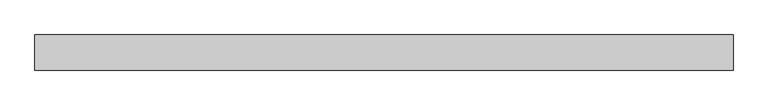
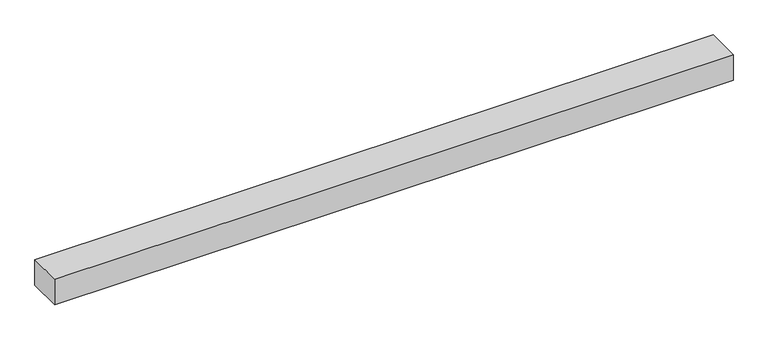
"""IFC4 building model written with IfcOpenShell, lengths in millimetres: plate geometry, Panel del sistema vacío : Vacío."""

import ifcopenshell
import ifcopenshell.guid

model = None  # the IFC model being written
_history = None  # IfcOwnerHistory: only IFC2X3 demands one
_inside = {}  # id of a spatial element -> (the spatial element, [elements in it])
_under = {}  # id of a project, library or spatial element -> (it, [spatial elements below it])
_declared = {}  # id of a project -> (the project, [libraries it declares])
_typed = {}  # id of a type object -> (the type object, [elements of that type])
_made_of = {}  # id of a material, layer set ... -> (it, [elements and type objects made of it])


def new_model(schema):
    """Start an empty IFC model of exactly this schema.

    Asked for "IFC4X3", IfcOpenShell would pick the latest addendum, in which some entities
    have other attributes; the version numbers below select the first issue.
    IFC2X3 requires an IfcOwnerHistory on every rooted entity: one is made here for all.
    """
    global model, _history
    if schema == "IFC4X3":
        model = ifcopenshell.file(schema_version=(4, 3, 0, 0))
    else:
        model = ifcopenshell.file(schema=schema)
    _inside.clear()
    _under.clear()
    _declared.clear()
    _typed.clear()
    _made_of.clear()
    _history = None
    if model.schema == "IFC2X3":
        org = make("IfcOrganization", Name="unknown")
        user = make(
            "IfcPersonAndOrganization",
            ThePerson=make("IfcPerson", FamilyName="unknown"),
            TheOrganization=org,
        )
        app = make(
            "IfcApplication",
            ApplicationDeveloper=org,
            Version="unknown",
            ApplicationFullName="unknown",
            ApplicationIdentifier="unknown",
        )
        _history = make(
            "IfcOwnerHistory",
            OwningUser=user,
            OwningApplication=app,
            ChangeAction="ADDED",
            CreationDate=0,
        )
    return model


def make(cls, **values):
    """One entity of the class cls with the attributes given. An attribute that is None is left unset."""
    return model.create_entity(
        cls, **{name: value for name, value in values.items() if value is not None}
    )


def rooted(cls, **values):
    """An entity with a GlobalId (a new one), such as an element, a storey or a relation."""
    return make(cls, GlobalId=ifcopenshell.guid.new(), OwnerHistory=_history, **values)


def si_unit(unit_type, name, prefix=None):
    """IfcSIUnit, for example si_unit("LENGTHUNIT", "METRE", prefix="MILLI")."""
    return make("IfcSIUnit", UnitType=unit_type, Prefix=prefix, Name=name)


def assignment(units):
    """IfcUnitAssignment: the units of a project."""
    return None if units is None else make("IfcUnitAssignment", Units=units)


def point(xyz):
    """IfcCartesianPoint."""
    return None if xyz is None else make("IfcCartesianPoint", Coordinates=xyz)


def direction(xyz):
    """IfcDirection."""
    return None if xyz is None else make("IfcDirection", DirectionRatios=xyz)


def frame(location, z_axis=None, x_axis=None):
    """IfcAxis2Placement3D, a coordinate frame: its origin and axes. An axis left out is left unset."""
    return make(
        "IfcAxis2Placement3D",
        Location=point(location),
        Axis=direction(z_axis),
        RefDirection=direction(x_axis),
    )


def origin():
    """The frame at (0, 0, 0) with its axes left unset."""
    return frame((0.0, 0.0, 0.0))


def origin_with_axes():
    """The frame at (0, 0, 0) with the z axis (0, 0, 1) and the x axis (1, 0, 0) written out."""
    return frame((0.0, 0.0, 0.0), z_axis=(0.0, 0.0, 1.0), x_axis=(1.0, 0.0, 0.0))


def place(relative_to, where):
    """IfcLocalPlacement: puts the frame where relative to a parent placement (None: the world)."""
    return make(
        "IfcLocalPlacement", PlacementRelTo=relative_to, RelativePlacement=where
    )


def context(
    kind, dimensions, precision=None, world=None, true_north=None, identifier=None
):
    """IfcGeometricRepresentationContext, for example the 3D "Model" context."""
    return make(
        "IfcGeometricRepresentationContext",
        ContextIdentifier=identifier,
        ContextType=kind,
        CoordinateSpaceDimension=dimensions,
        Precision=precision,
        WorldCoordinateSystem=world,
        TrueNorth=true_north,
    )


def project(units=None, contexts=None):
    """IfcProject with its units and contexts."""
    return rooted(
        "IfcProject",
        Name="project",
        RepresentationContexts=contexts,
        UnitsInContext=assignment(units),
    )


def spatial(cls, under=None, at=None, **own):
    """A site, building, storey or space (cls), placed at a placement, below another one or the project."""
    s = rooted(cls, ObjectPlacement=at, **own)
    if under is not None:
        _under.setdefault(under.id(), (under, []))[1].append(s)
    return s


def polyline(points):
    """IfcPolyline through the points."""
    return make("IfcPolyline", Points=[point(p) for p in points])


def outline(outer, holes=None, kind="AREA"):
    """IfcArbitraryClosedProfileDef: a profile drawn as a closed curve; with holes, ...WithVoids."""
    if holes is None:
        return make("IfcArbitraryClosedProfileDef", ProfileType=kind, OuterCurve=outer)
    return make(
        "IfcArbitraryProfileDefWithVoids",
        ProfileType=kind,
        OuterCurve=outer,
        InnerCurves=holes,
    )


def extrude(swept, where, along, depth):
    """IfcExtrudedAreaSolid: the profile swept, set in the frame where, extruded along a direction by depth."""
    return make(
        "IfcExtrudedAreaSolid",
        SweptArea=swept,
        Position=where,
        ExtrudedDirection=direction(along),
        Depth=depth,
    )


def shape(context_of_items, identifier, shape_type, items):
    """IfcShapeRepresentation: the items that make up one representation, for example the "Body"."""
    return make(
        "IfcShapeRepresentation",
        ContextOfItems=context_of_items,
        RepresentationIdentifier=identifier,
        RepresentationType=shape_type,
        Items=items,
    )


def source(mapping_origin, context_of_items, identifier, shape_type, items):
    """IfcRepresentationMap: a shape defined once, which mapped items show again and again."""
    return make(
        "IfcRepresentationMap",
        MappingOrigin=mapping_origin,
        MappedRepresentation=shape(context_of_items, identifier, shape_type, items),
    )


def transform(
    local_origin,
    x_axis=None,
    y_axis=None,
    z_axis=None,
    scale=None,
    scale2=None,
    scale3=None,
    uniform=True,
):
    """IfcCartesianTransformationOperator3D, or its non-uniform kind. x_axis, y_axis, z_axis: its Axis1, 2, 3."""
    if uniform:
        return make(
            "IfcCartesianTransformationOperator3D",
            Axis1=direction(x_axis),
            Axis2=direction(y_axis),
            LocalOrigin=point(local_origin),
            Scale=scale,
            Axis3=direction(z_axis),
        )
    return make(
        "IfcCartesianTransformationOperator3DnonUniform",
        Axis1=direction(x_axis),
        Axis2=direction(y_axis),
        LocalOrigin=point(local_origin),
        Scale=scale,
        Axis3=direction(z_axis),
        Scale2=scale2,
        Scale3=scale3,
    )


def mapped(mapping_source, mapping_target):
    """IfcMappedItem: shows the shape of a source again, moved by a transform."""
    return make(
        "IfcMappedItem", MappingSource=mapping_source, MappingTarget=mapping_target
    )


def made_of(thing, what):
    """Note that an element or type object is made of a material, layer set ...; save() writes the relation."""
    if what is not None:
        _made_of.setdefault(what.id(), (what, []))[1].append(thing)
    return thing


def element(
    cls,
    number,
    at=None,
    inside=None,
    cuts=None,
    type_object=None,
    material=None,
    context=None,
    identifier="Body",
    shape_type=None,
    held_by="IfcProductDefinitionShape",
    body=None,
    shapes=None,
    **own,
):
    """One element of the class cls, such as IfcWall. Its Tag is "e" and its number.

    at: its placement. inside: the storey or other place that contains it. cuts: it is an
    opening in that element (IfcRelVoidsElement). A single representation is given by context,
    identifier, shape_type and body (its items); several are given by shapes. held_by: the class
    of the entity that holds the representations. save() writes the other relations.
    """
    e = rooted(cls, Tag="e%d" % number, ObjectPlacement=at, **own)
    if body is not None:
        shapes = [shape(context, identifier, shape_type, body)]
    if shapes is not None:
        e.Representation = make(held_by, Representations=shapes)
    if inside is not None:
        _inside.setdefault(inside.id(), (inside, []))[1].append(e)
    if cuts is not None:
        rooted(
            "IfcRelVoidsElement", RelatingBuildingElement=cuts, RelatedOpeningElement=e
        )
    if type_object is not None:
        _typed.setdefault(type_object.id(), (type_object, []))[1].append(e)
    return made_of(e, material)


def aggregate(whole, parts):
    """IfcRelAggregates: a whole, such as a stair, and the parts it consists of."""
    return rooted("IfcRelAggregates", RelatingObject=whole, RelatedObjects=parts)


def save(model, path):
    """Write the relations noted so far, then the file.

    IfcRelAggregates (storeys below a building ...), IfcRelContainedInSpatialStructure (elements
    in a storey), IfcRelDefinesByType, IfcRelAssociatesMaterial and IfcRelDeclares: one each for
    every whole, place, type object, material and project.
    """
    for whole, parts in _under.values():
        aggregate(whole, parts)
    for where, things in _inside.values():
        rooted(
            "IfcRelContainedInSpatialStructure",
            RelatedElements=things,
            RelatingStructure=where,
        )
    for kind, things in _typed.values():
        rooted("IfcRelDefinesByType", RelatedObjects=things, RelatingType=kind)
    for what, things in _made_of.values():
        rooted("IfcRelAssociatesMaterial", RelatedObjects=things, RelatingMaterial=what)
    for by, libraries in _declared.values():
        rooted("IfcRelDeclares", RelatingContext=by, RelatedDefinitions=libraries)
    model.write(path)


def plate_4e62c2e7(model_context):
    return source(origin(), model_context, "Body", "SweptSolid", [
        extrude(outline(polyline([(993.0982657, 50.0), (-993.0982657, 50.0), (-993.0982657, 150.0), (993.0982657, 150.0), (993.0982657, 50.0)])), origin_with_axes(), (0.0, 0.0, 1.0), 79.3333333),
    ])


if __name__ == "__main__":
    model = new_model("IFC4")
    model_context = context("Model", 3, world=origin())
    ifc_project = project(units=[si_unit("LENGTHUNIT", "METRE", prefix="MILLI")], contexts=[model_context])
    site = spatial("IfcSite", under=ifc_project)
    building = spatial("IfcBuilding", under=site)
    placement = place(None, origin())
    plate_shape = plate_4e62c2e7(model_context)
    element("IfcPlate", 1, ObjectType="Panel del sistema vacío : Vacío", at=placement, inside=building, context=model_context, shape_type="MappedRepresentation", body=[
        mapped(plate_shape, transform((0.0, 0.0, 0.0), x_axis=(1.0, 0.0, 0.0), y_axis=(0.0, 1.0, 0.0), z_axis=(0.0, 0.0, 1.0))),
    ])
    save(model, "model.ifc")
